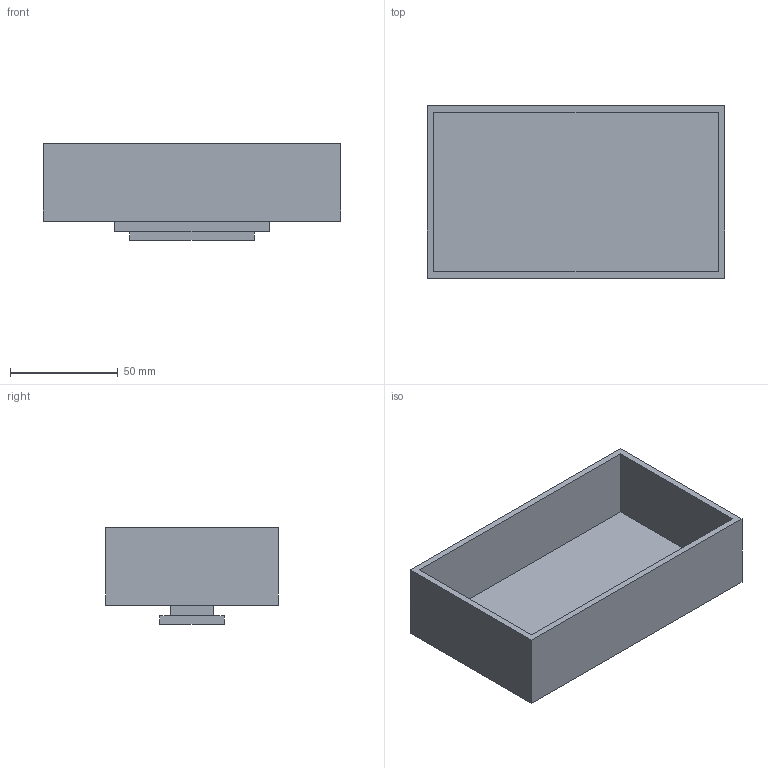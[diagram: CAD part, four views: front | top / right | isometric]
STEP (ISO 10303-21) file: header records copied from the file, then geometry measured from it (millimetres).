
FILE_DESCRIPTION(('Open CASCADE Model'),'2;1');
FILE_NAME('Open CASCADE Shape Model','2026-09-10T23:36:50',('Author'),( 'Open CASCADE'),'Open CASCADE STEP processor 7.9','Open CASCADE 7.9' ,'Unknown');
FILE_SCHEMA(('AUTOMOTIVE_DESIGN { 1 0 10303 214 1 1 1 1 }'));
Length unit declared in the file: millimetre
Products named in the file (1): Open CASCADE STEP translator 7.9 13
Bounding box: 138 x 80 x 45 mm (x, y, z)
Volume: 89256 mm3; surface area: 54156 mm2
Topology: 1 solids, 1 shells, 24 faces, 56 edges, 36 vertices
Faces by surface type: plane 24
Entity records: 1398 total; most frequent: CARTESIAN_POINT 237, DIRECTION 210, LINE 160, VECTOR 160, ORIENTED_EDGE 112, PCURVE 112, DEFINITIONAL_REPRESENTATION 112, EDGE_CURVE 56
